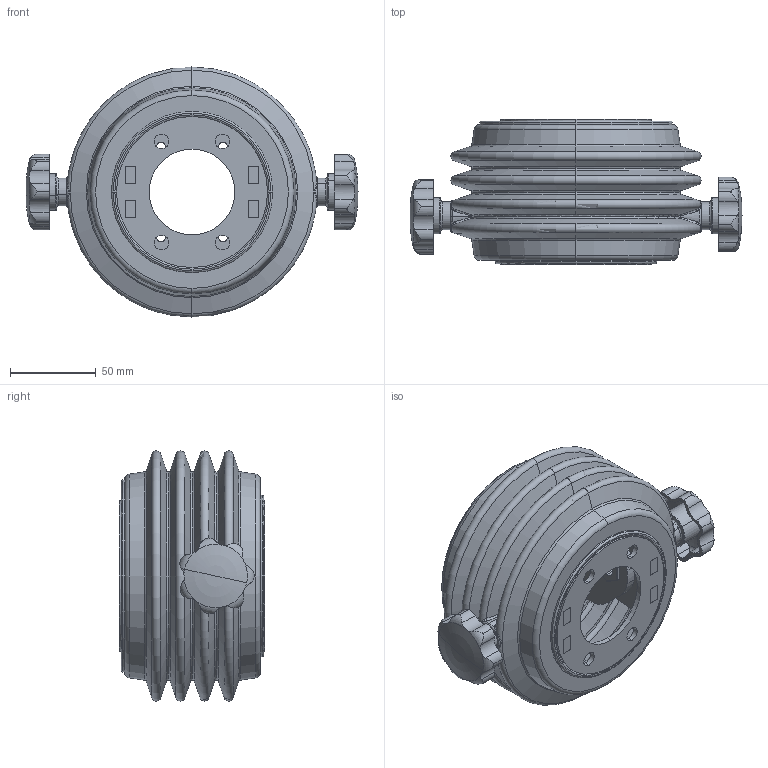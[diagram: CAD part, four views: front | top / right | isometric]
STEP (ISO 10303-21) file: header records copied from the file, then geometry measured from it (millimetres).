
FILE_DESCRIPTION (( 'STEP AP203' ), '1' );
FILE_NAME ('TP060.3400.STEP', '2025-12-09T14:07:27', ( '' ), ( '' ), 'SwSTEP 2.0', 'SolidWorks 2015', '' );
FILE_SCHEMA (( 'CONFIG_CONTROL_DESIGN' ));
Length unit declared in the file: millimetre
Products named in the file (11): K鰎黭_0703; 葭_Kaynakl齙Par鏰; Somun_m10; 07160-105x12; boutet_knob_8102i; Somun_m5; Distans_; Alt_Alt_Parça_0703; Dýþ_Parça; Üst_Üst_Parça; TP060.3400
Assembly tree (17 placements, depth 2):
  TP060.3400
    Distans_  x2
    Üst_Üst_Parça
    Dýþ_Parça  x2
    葭_Kaynakl齙Par鏰  x2
    07160-105x12  x2
    Somun_m10  x2
    Alt_Alt_Parça_0703
    K鰎黭_0703
    Somun_m5  x2
    boutet_knob_8102i  x2
Bounding box: 193.6 x 84.65 x 145.81 mm (x, y, z)
Volume: 238911.1 mm3; surface area: 212393.7 mm2
Topology: 17 solids, 17 shells, 769 faces, 1910 edges, 1162 vertices
Faces by surface type: cylinder 298, plane 187, torus 128, cone 80, bspline 48, sphere 28
Entity records: 19269 total; most frequent: CARTESIAN_POINT 5811, DIRECTION 2612, ORIENTED_EDGE 2514, EDGE_CURVE 1257, AXIS2_PLACEMENT_3D 1066, VERTEX_POINT 769, EDGE_LOOP 582, CIRCLE 577
